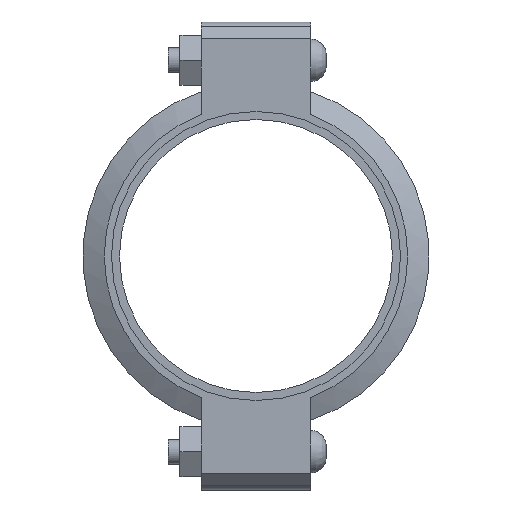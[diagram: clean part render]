
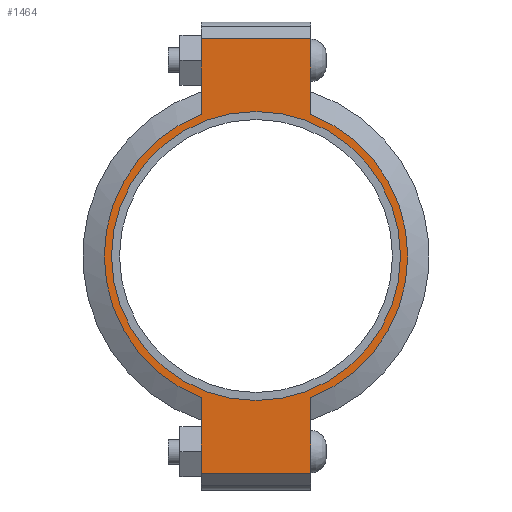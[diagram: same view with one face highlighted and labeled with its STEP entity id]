
A CAD part, left-side view. The second image highlights one B-rep face of the part: STEP entity #1464.
In plain terms, the highlighted planar face has unit normal (-1, 0, 0) as drawn and (0, 0, 1) by its records, which use the part's own axes.
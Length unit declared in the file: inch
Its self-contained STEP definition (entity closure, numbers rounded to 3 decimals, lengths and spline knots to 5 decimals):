
#144=LINE('',#2521,#235);
#152=LINE('',#2557,#243);
#159=LINE('',#2578,#250);
#168=LINE('',#2610,#259);
#169=LINE('',#2614,#260);
#170=LINE('',#2616,#261);
#235=VECTOR('',#2039,0.3937);
#243=VECTOR('',#2055,0.3937);
#250=VECTOR('',#2074,0.3937);
#259=VECTOR('',#2099,0.3937);
#260=VECTOR('',#2104,0.3937);
#261=VECTOR('',#2105,0.3937);
#313=FACE_BOUND('',#473,.T.);
#377=FACE_OUTER_BOUND('',#472,.T.);
#472=EDGE_LOOP('',(#1199,#1200,#1201,#1202,#1203,#1204,#1205,#1206));
#473=EDGE_LOOP('',(#1207));
#570=CIRCLE('',#1707,4.53);
#571=CIRCLE('',#1708,4.53);
#572=CIRCLE('',#1709,4.3125);
#675=VERTEX_POINT('',#2518);
#676=VERTEX_POINT('',#2520);
#687=VERTEX_POINT('',#2552);
#688=VERTEX_POINT('',#2556);
#695=VERTEX_POINT('',#2575);
#696=VERTEX_POINT('',#2577);
#706=VERTEX_POINT('',#2613);
#707=VERTEX_POINT('',#2615);
#708=VERTEX_POINT('',#2618);
#839=EDGE_CURVE('',#676,#675,#144,.T.);
#853=EDGE_CURVE('',#688,#687,#152,.T.);
#863=EDGE_CURVE('',#696,#695,#159,.T.);
#878=EDGE_CURVE('',#688,#675,#168,.T.);
#879=EDGE_CURVE('',#687,#696,#570,.T.);
#880=EDGE_CURVE('',#706,#695,#169,.T.);
#881=EDGE_CURVE('',#706,#707,#170,.T.);
#882=EDGE_CURVE('',#707,#676,#571,.T.);
#883=EDGE_CURVE('',#708,#708,#572,.T.);
#1199=ORIENTED_EDGE('',*,*,#878,.F.);
#1200=ORIENTED_EDGE('',*,*,#853,.T.);
#1201=ORIENTED_EDGE('',*,*,#879,.T.);
#1202=ORIENTED_EDGE('',*,*,#863,.T.);
#1203=ORIENTED_EDGE('',*,*,#880,.F.);
#1204=ORIENTED_EDGE('',*,*,#881,.T.);
#1205=ORIENTED_EDGE('',*,*,#882,.T.);
#1206=ORIENTED_EDGE('',*,*,#839,.T.);
#1207=ORIENTED_EDGE('',*,*,#883,.T.);
#1318=PLANE('',#1706);
#1464=ADVANCED_FACE('',(#377,#313),#1318,.T.);
#1706=AXIS2_PLACEMENT_3D('',#2611,#2100,#2101);
#1707=AXIS2_PLACEMENT_3D('',#2612,#2102,#2103);
#1708=AXIS2_PLACEMENT_3D('',#2617,#2106,#2107);
#1709=AXIS2_PLACEMENT_3D('',#2619,#2108,#2109);
#2039=DIRECTION('',(-1.,0.,0.));
#2055=DIRECTION('',(1.,0.,0.));
#2074=DIRECTION('',(1.,0.,0.));
#2099=DIRECTION('',(0.,1.,0.));
#2100=DIRECTION('center_axis',(0.,0.,1.));
#2101=DIRECTION('ref_axis',(1.,0.,0.));
#2102=DIRECTION('center_axis',(0.,0.,1.));
#2103=DIRECTION('ref_axis',(-1.,0.,0.));
#2104=DIRECTION('',(0.,-1.,0.));
#2105=DIRECTION('',(-1.,0.,0.));
#2106=DIRECTION('center_axis',(0.,0.,1.));
#2107=DIRECTION('ref_axis',(-1.,0.,0.));
#2108=DIRECTION('center_axis',(0.,0.,-1.));
#2109=DIRECTION('ref_axis',(-1.,0.,0.));
#2518=CARTESIAN_POINT('',(-6.485,1.63,1.16));
#2520=CARTESIAN_POINT('',(-4.22658,1.63,1.16));
#2521=CARTESIAN_POINT('',(-6.985,1.63,1.16));
#2552=CARTESIAN_POINT('',(-4.22658,-1.63,1.16));
#2556=CARTESIAN_POINT('',(-6.485,-1.63,1.16));
#2557=CARTESIAN_POINT('',(6.985,-1.63,1.16));
#2575=CARTESIAN_POINT('',(6.485,-1.63,1.16));
#2577=CARTESIAN_POINT('',(4.22658,-1.63,1.16));
#2578=CARTESIAN_POINT('',(6.985,-1.63,1.16));
#2610=CARTESIAN_POINT('',(-6.485,0.815,1.16));
#2611=CARTESIAN_POINT('Origin',(0.,0.,
1.16));
#2612=CARTESIAN_POINT('Origin',(0.,0.,1.16));
#2613=CARTESIAN_POINT('',(6.485,1.63,1.16));
#2614=CARTESIAN_POINT('',(6.485,-0.815,1.16));
#2615=CARTESIAN_POINT('',(4.22658,1.63,1.16));
#2616=CARTESIAN_POINT('',(-6.985,1.63,1.16));
#2617=CARTESIAN_POINT('Origin',(0.,0.,1.16));
#2618=CARTESIAN_POINT('',(4.3125,0.,1.16));
#2619=CARTESIAN_POINT('Origin',(0.,0.,1.16));
